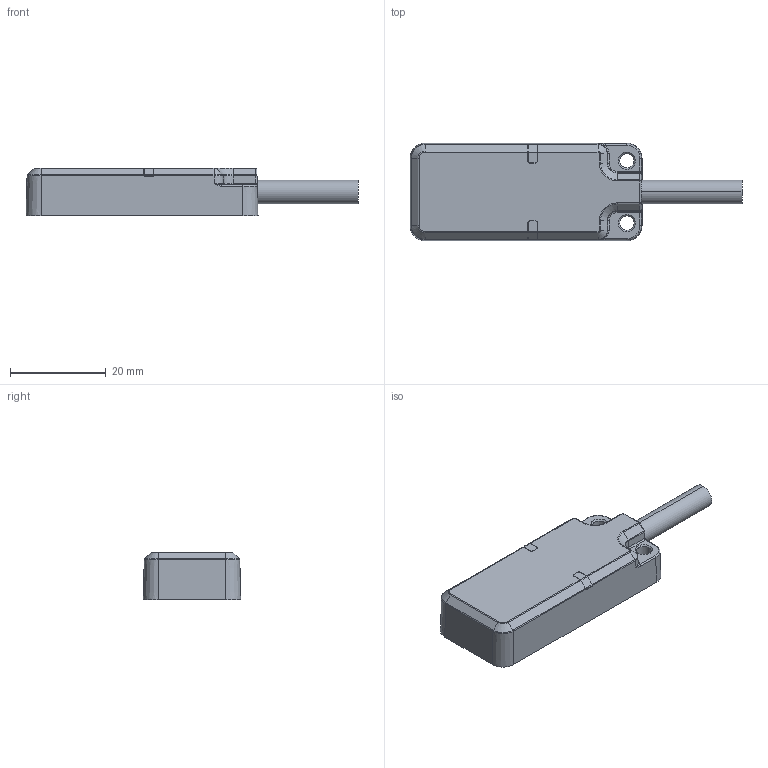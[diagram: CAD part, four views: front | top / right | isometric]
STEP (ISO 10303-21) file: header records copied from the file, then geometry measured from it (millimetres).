
FILE_DESCRIPTION((''),'2;1');
FILE_NAME('HR-HC4820-20230306_1__ASM','2023-05-08T',('Administrator'),(''),'PRO/ENGINEER BY PARAMETRIC TECHNOLOGY CORPORATION, 2008380','PRO/ENGINEER BY PARAMETRIC TECHNOLOGY CORPORATION, 2008380','');
FILE_SCHEMA(('CONFIG_CONTROL_DESIGN'));
Length unit declared in the file: millimetre
Products named in the file (9): TOP-SHELL-1_15; PCBA_2; CABLE_2; STEEL-CIRCLE_1; ANNT-PCBA_2; 254-PIN_2; LED-GUIDE-DAN_1; I6_ASM_19_ASM; HR-HC4820-20230306_1__ASM
Assembly tree (9 placements, depth 3):
  HR-HC4820-20230306_1__ASM
    I6_ASM_19_ASM
      TOP-SHELL-1_15
      PCBA_2
      CABLE_2
      STEEL-CIRCLE_1
      ANNT-PCBA_2
      254-PIN_2
      LED-GUIDE-DAN_1  x2
Bounding box: 69.17 x 20.34 x 10 mm (x, y, z)
Volume: 10566.1 mm3; surface area: 6462.9 mm2
Topology: 9 solids, 14 shells, 511 faces, 1316 edges, 831 vertices
Faces by surface type: plane 286, cylinder 126, cone 46, torus 32, bspline 13, sphere 8
Entity records: 15089 total; most frequent: CARTESIAN_POINT 3396, DIRECTION 2416, ORIENTED_EDGE 2408, EDGE_CURVE 1204, AXIS2_PLACEMENT_3D 809, VECTOR 798, LINE 798, VERTEX_POINT 764
